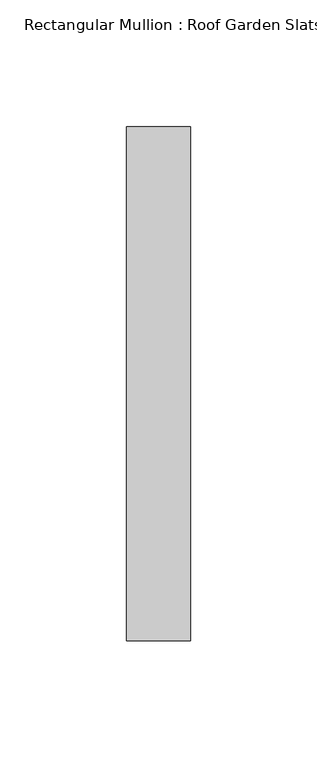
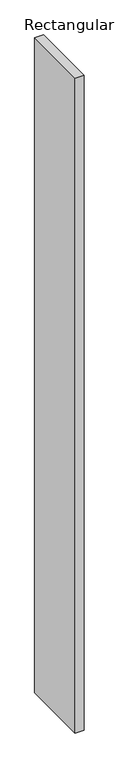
"""IFC4 building model written with IfcOpenShell, lengths in millimetres: member geometry, Rectangular Mullion : Roof Garden Slats."""

from ifc_helpers import new_model, si_unit, frame, origin, place, context, project, spatial, polyline, outline, extrude, source, transform, mapped, element, save


def rectangular_mullion_roof_garden_slats_2cb349c0(model_context):
    return source(origin(), model_context, "Body", "SweptSolid", [
        extrude(outline(polyline([(12.7, 139.7), (12.7, -63.5), (-12.7, -63.5), (-12.7, 139.7), (12.7, 139.7)])), frame((0.0, 0.0, -2008.3932337), z_axis=(0.0, 0.0, 1.0), x_axis=(1.0, 0.0, 0.0)), (0.0, 0.0, 1.0), 2008.3932337),
    ])


if __name__ == "__main__":
    model = new_model("IFC4")
    model_context = context("Model", 3, world=origin())
    ifc_project = project(units=[si_unit("LENGTHUNIT", "METRE", prefix="MILLI")], contexts=[model_context])
    site = spatial("IfcSite", under=ifc_project)
    building = spatial("IfcBuilding", under=site)
    placement = place(None, origin())
    rectangular_mullion_roof_garden_slats_shape = rectangular_mullion_roof_garden_slats_2cb349c0(model_context)
    element("IfcMember", 1, ObjectType="Rectangular Mullion : Roof Garden Slats", at=placement, inside=building, context=model_context, shape_type="MappedRepresentation", body=[
        mapped(rectangular_mullion_roof_garden_slats_shape, transform((0.0, 0.0, 0.0), x_axis=(1.0, 0.0, 0.0), y_axis=(0.0, 1.0, 0.0), z_axis=(0.0, 0.0, 1.0))),
    ])
    save(model, "model.ifc")
